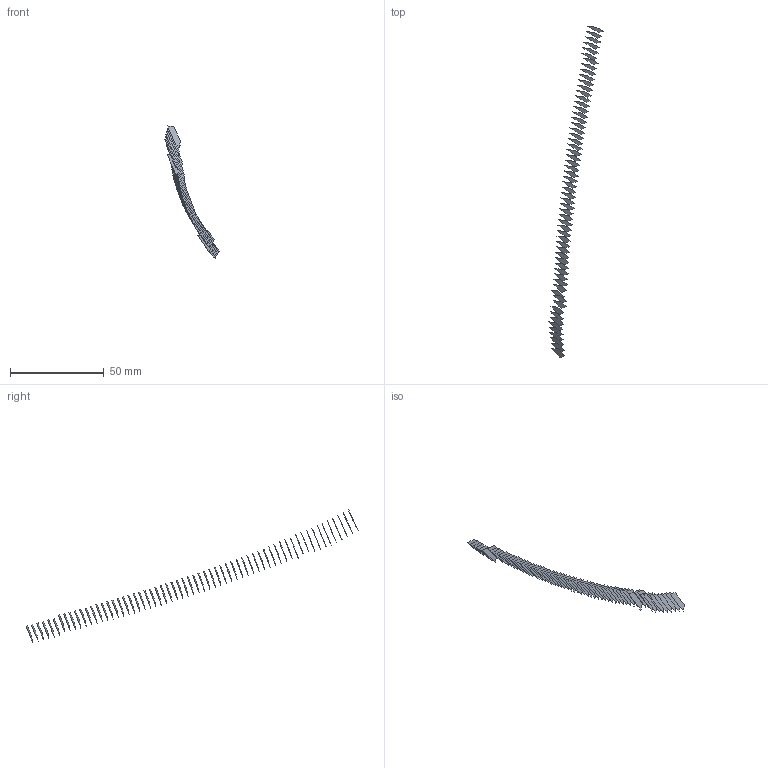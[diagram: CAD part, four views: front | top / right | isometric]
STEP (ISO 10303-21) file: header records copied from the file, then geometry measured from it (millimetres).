
FILE_DESCRIPTION(('FreeCAD Model'),'2;1');
FILE_NAME('Open CASCADE Shape Model','2022-05-22T07:50:30',('FreeCAD'),( 'FreeCAD'),'Open CASCADE STEP processor 7.5','FreeCAD','Unknown');
FILE_SCHEMA(('AUTOMOTIVE_DESIGN { 1 0 10303 214 1 1 1 1 }'));
Length unit declared in the file: millimetre
Products named in the file (62): Open CASCADE STEP translator 7.5 1; Open CASCADE STEP translator 7.5 1.1; Open CASCADE STEP translator 7.5 1.2; Open CASCADE STEP translator 7.5 1.3; Open CASCADE STEP translator 7.5 1.4; Open CASCADE STEP translator 7.5 1.5; Open CASCADE STEP translator 7.5 1.6; Open CASCADE STEP translator 7.5 1.7; Open CASCADE STEP translator 7.5 1.8; Open CASCADE STEP translator 7.5 1.9; Open CASCADE STEP translator 7.5 1.10; Open CASCADE STEP translator 7.5 1.11; Open CASCADE STEP translator 7.5 1.12; Open CASCADE STEP translator 7.5 1.13; Open CASCADE STEP translator 7.5 1.14; Open CASCADE STEP translator 7.5 1.15; Open CASCADE STEP translator 7.5 1.16; Open CASCADE STEP translator 7.5 1.17; Open CASCADE STEP translator 7.5 1.18; Open CASCADE STEP translator 7.5 1.19; Open CASCADE STEP translator 7.5 1.20; Open CASCADE STEP translator 7.5 1.21; Open CASCADE STEP translator 7.5 1.22; Open CASCADE STEP translator 7.5 1.23; Open CASCADE STEP translator 7.5 1.24; Open CASCADE STEP translator 7.5 1.25; Open CASCADE STEP translator 7.5 1.26; Open CASCADE STEP translator 7.5 1.27; Open CASCADE STEP translator 7.5 1.28; Open CASCADE STEP translator 7.5 1.29; Open CASCADE STEP translator 7.5 1.30; Open CASCADE STEP translator 7.5 1.31; Open CASCADE STEP translator 7.5 1.32; Open CASCADE STEP translator 7.5 1.33; Open CASCADE STEP translator 7.5 1.34; Open CASCADE STEP translator 7.5 1.35; Open CASCADE STEP translator 7.5 1.36; Open CASCADE STEP translator 7.5 1.37; Open CASCADE STEP translator 7.5 1.38; Open CASCADE STEP translator 7.5 1.39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
Assembly tree (61 placements, depth 2):
  Open CASCADE STEP translator 7.5 1
    Open CASCADE STEP translator 7.5 1.1
    Open CASCADE STEP translator 7.5 1.2
    Open CASCADE STEP translator 7.5 1.3
    Open CASCADE STEP translator 7.5 1.4
    Open CASCADE STEP translator 7.5 1.5
    Open CASCADE STEP translator 7.5 1.6
    Open CASCADE STEP translator 7.5 1.7
    Open CASCADE STEP translator 7.5 1.8
    Open CASCADE STEP translator 7.5 1.9
    Open CASCADE STEP translator 7.5 1.10
    Open CASCADE STEP translator 7.5 1.11
    Open CASCADE STEP translator 7.5 1.12
    Open CASCADE STEP translator 7.5 1.13
    Open CASCADE STEP translator 7.5 1.14
    Open CASCADE STEP translator 7.5 1.15
    Open CASCADE STEP translator 7.5 1.16
    Open CASCADE STEP translator 7.5 1.17
    Open CASCADE STEP translator 7.5 1.18
    Open CASCADE STEP translator 7.5 1.19
    Open CASCADE STEP translator 7.5 1.20
    Open CASCADE STEP translator 7.5 1.21
    Open CASCADE STEP translator 7.5 1.22
    Open CASCADE STEP translator 7.5 1.23
    Open CASCADE STEP translator 7.5 1.24
    Open CASCADE STEP translator 7.5 1.25
    Open CASCADE STEP translator 7.5 1.26
    Open CASCADE STEP translator 7.5 1.27
    Open CASCADE STEP translator 7.5 1.28
    Open CASCADE STEP translator 7.5 1.29
    Open CASCADE STEP translator 7.5 1.30
    Open CASCADE STEP translator 7.5 1.31
    Open CASCADE STEP translator 7.5 1.32
    Open CASCADE STEP translator 7.5 1.33
    Open CASCADE STEP translator 7.5 1.34
    Open CASCADE STEP translator 7.5 1.35
    Open CASCADE STEP translator 7.5 1.36
    Open CASCADE STEP translator 7.5 1.37
    Open CASCADE STEP translator 7.5 1.38
    Open CASCADE STEP translator 7.5 1.39
    Open CASCADE STEP translator 7.5 1.40
    Open CASCADE STEP translator 7.5 1.41
    Open CASCADE STEP translator 7.5 1.42
    Open CASCADE STEP translator 7.5 1.43
    Open CASCADE STEP translator 7.5 1.44
    Open CASCADE STEP translator 7.5 1.45
    Open CASCADE STEP translator 7.5 1.46
    Open CASCADE STEP translator 7.5 1.47
    Open CASCADE STEP translator 7.5 1.48
    Open CASCADE STEP translator 7.5 1.49
    Open CASCADE STEP translator 7.5 1.50
    Open CASCADE STEP translator 7.5 1.51
    Open CASCADE STEP translator 7.5 1.52
    Open CASCADE STEP translator 7.5 1.53
    Open CASCADE STEP translator 7.5 1.54
    Open CASCADE STEP translator 7.5 1.55
    Open CASCADE STEP translator 7.5 1.56
    Open CASCADE STEP translator 7.5 1.57
    Open CASCADE STEP translator 7.5 1.58
    Open CASCADE STEP translator 7.5 1.59
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Bounding box: 28.88 x 177.05 x 70.48 mm (x, y, z)
Surface area: 2124.9 mm2 (no closed solid volume)
Topology: 0 solids, 61 shells, 61 faces, 568 edges, 568 vertices
Faces by surface type: bspline 61
Entity records: 9108 total; most frequent: CARTESIAN_POINT 3146, B_SPLINE_CURVE_WITH_KNOTS 1136, ORIENTED_EDGE 568, EDGE_CURVE 568, VERTEX_POINT 568, SURFACE_CURVE 568, PCURVE 568, DEFINITIONAL_REPRESENTATION 568
